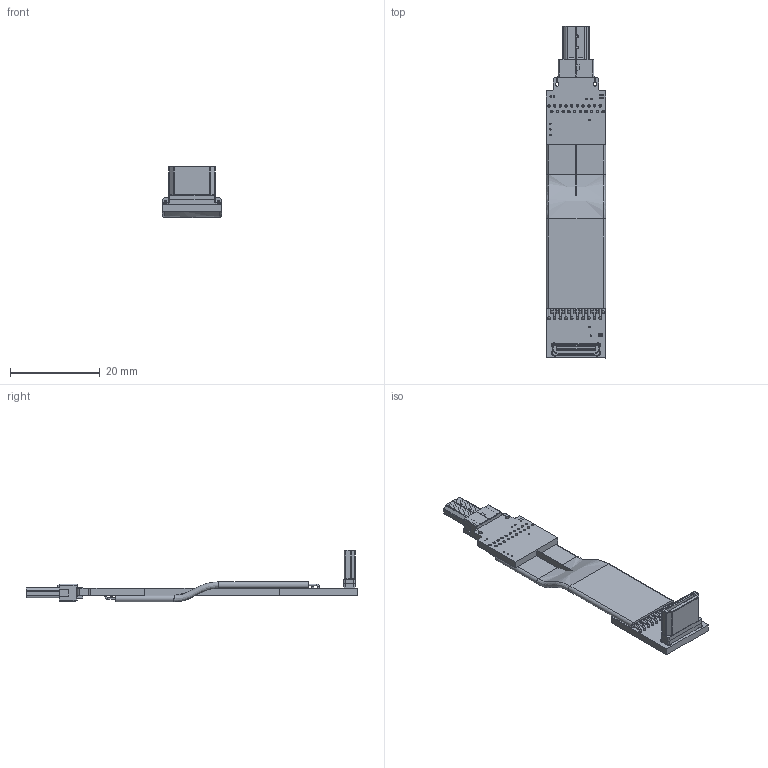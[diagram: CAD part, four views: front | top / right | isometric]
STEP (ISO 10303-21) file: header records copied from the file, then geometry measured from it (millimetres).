
FILE_DESCRIPTION(('Open CASCADE Model'),'2;1');
FILE_NAME('Open CASCADE Shape Model','2022-06-09T22:46:20',('Author'),( 'Open CASCADE'),'Open CASCADE STEP processor 6.8','Open CASCADE 6.8' ,'Unknown');
FILE_SCHEMA(('AUTOMOTIVE_DESIGN { 1 0 10303 214 1 1 1 1 }'));
Length unit declared in the file: millimetre
Products named in the file (70): PCB; Board; Open CASCADE STEP translator 6.8 5.1.1; _1; HDMI_MICRO_D(M)_??(2); Open CASCADE STEP translator 6.8 5.3; miniHDMI-p_RGB10275833; HDMI_type_C1; Free-Models; cable20-A1A3
Assembly tree (70 placements, depth 3):
  PCB
    Board
      Open CASCADE STEP translator 6.8 5.1.1
    _1
      HDMI_MICRO_D(M)_??(2)
      HDMI_MICRO_D(M)_??(2)
      HDMI_MICRO_D(M)_??(2)
      HDMI_MICRO_D(M)_??(2)
      HDMI_MICRO_D(M)_??(2)
      HDMI_MICRO_D(M)_??(2)
      HDMI_MICRO_D(M)_??(2)
      HDMI_MICRO_D(M)_??(2)
      HDMI_MICRO_D(M)_??(2)
      HDMI_MICRO_D(M)_??(2)
      HDMI_MICRO_D(M)_??(2)
      HDMI_MICRO_D(M)_??(2)
      HDMI_MICRO_D(M)_??(2)
      HDMI_MICRO_D(M)_??(2)
      HDMI_MICRO_D(M)_??(2)
      HDMI_MICRO_D(M)_??(2)
      HDMI_MICRO_D(M)_??(2)
      HDMI_MICRO_D(M)_??(2)
      HDMI_MICRO_D(M)_??(2)
      HDMI_MICRO_D(M)_??(2)
      HDMI_MICRO_D(M)_??(2)
      HDMI_MICRO_D(M)_??(2)
    Open CASCADE STEP translator 6.8 5.3
      miniHDMI-p_RGB10275833  x2
      HDMI_type_C1
    Free-Models
      cable20-A1A3
      cable20-A1A3
      cable20-A1A3
      cable20-A1A3
      cable20-A1A3
      cable20-A1A3
      cable20-A1A3
      cable20-A1A3
      cable20-A1A3
      cable20-A1A3
      cable20-A1A3
      cable20-A1A3
      cable20-A1A3
      cable20-A1A3
      cable20-A1A3
      cable20-A1A3
      cable20-A1A3
      cable20-A1A3
      cable20-A1A3
      cable20-A1A3
      cable20-A1A3
      cable20-A1A3
      cable20-A1A3
      cable20-A1A3
      cable20-A1A3
      cable20-A1A3
      cable20-A1A3
      cable20-A1A3
      cable20-A1A3
      cable20-A1A3
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Bounding box: 13.36 x 73.97 x 11.4 mm (x, y, z)
Volume: 1679.2 mm3; surface area: 5148.7 mm2
Topology: 66 solids, 66 shells, 952 faces, 2334 edges, 1514 vertices
Faces by surface type: plane 578, cylinder 278, torus 46, bspline 46, extrusion 4
Full cylindrical faces by diameter (mm): 0.304 x18, 0.4 x105, 0.404 x2, 0.405 x2, 0.55 x20, 0.6 x20, 0.8 x2, 1.1 x2, 1.4 x2
Entity records: 39057 total; most frequent: CARTESIAN_POINT 7633, ORIENTED_EDGE 4620, DIRECTION 4604, EDGE_CURVE 2310, AXIS2_PLACEMENT_3D 1545, VECTOR 1514, LINE 1510, VERTEX_POINT 1498
